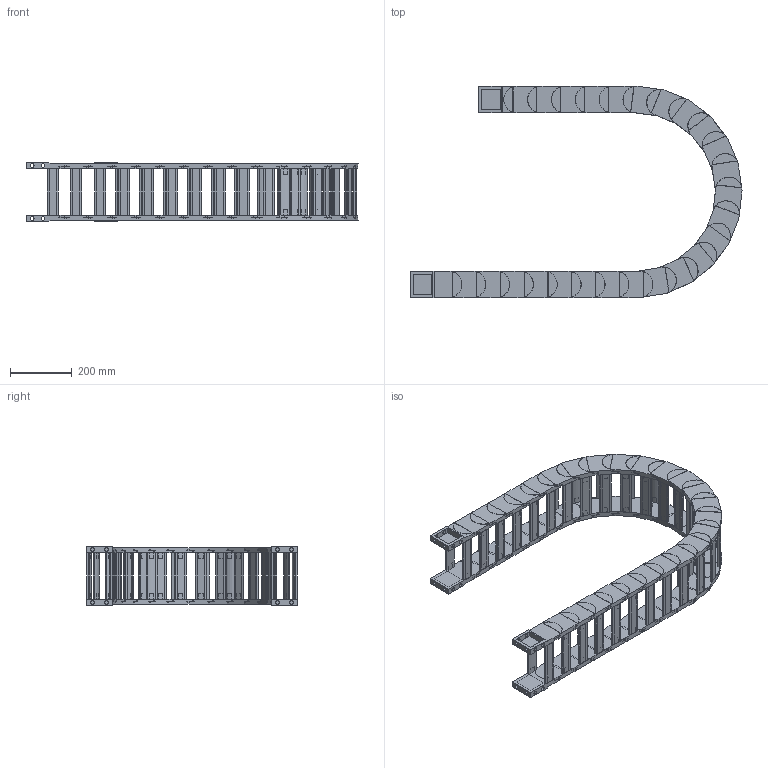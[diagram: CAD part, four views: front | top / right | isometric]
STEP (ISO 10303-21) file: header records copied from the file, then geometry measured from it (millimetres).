
FILE_DESCRIPTION((''),'2;1');
FILE_NAME('HD65-R300-ZPT_ASM','2022-06-18T16:15:28',('admin'),(''),'CREO PARAMETRIC BY PTC INC, 2021164','CREO PARAMETRIC BY PTC INC, 2021164','');
FILE_SCHEMA(('CONFIG_CONTROL_DESIGN','GEOMETRIC_VALIDATION_PROPERTIES_MIM'));
Length unit declared in the file: millimetre
Products named in the file (6): HD65; 65-50HDQSYP; HD65_ASM; H65-T1; H65-T2; HD65-R300-ZPT_ASM
Assembly tree (31 placements, depth 3):
  HD65-R300-ZPT_ASM
    HD65_ASM  x25
      HD65
      65-50HDQSYP
    H65-T1
    H65-T2
    65-50HDQSYP  x2
Bounding box: 1078.09 x 685.84 x 190.3 mm (x, y, z)
Volume: 8437410 mm3; surface area: 2511887.1 mm2
Topology: 108 solids, 108 shells, 1988 faces, 5238 edges, 3578 vertices
Faces by surface type: plane 1528, cylinder 460
Entity records: 8956 total; most frequent: CARTESIAN_POINT 1338, DIRECTION 1306, ORIENTED_EDGE 1212, EDGE_CURVE 606, AXIS2_PLACEMENT_3D 441, VECTOR 424, LINE 424, VERTEX_POINT 410
